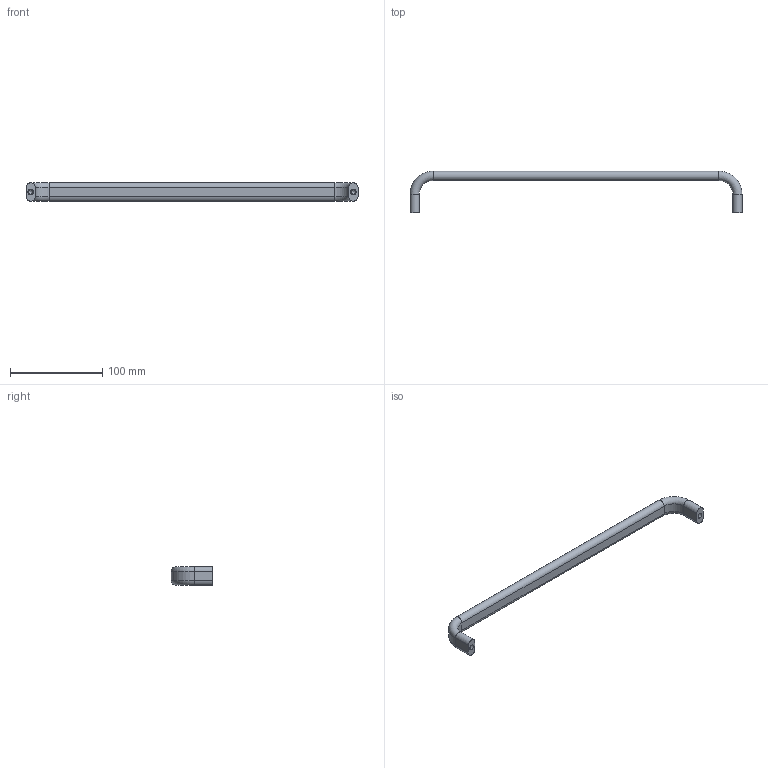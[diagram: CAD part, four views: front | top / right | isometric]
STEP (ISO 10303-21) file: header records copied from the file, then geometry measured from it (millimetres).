
FILE_DESCRIPTION (( 'STEP AP203' ), '1' );
FILE_NAME ('7803.W350-4.step', '2010-02-11T18:10:08', ( 'Wixroyd' ), ( 'Wixroyd' ), 'SwSTEP 2.0', 'SolidWorks 2009', '' );
FILE_SCHEMA (( 'CONFIG_CONTROL_DESIGN' ));
Length unit declared in the file: millimetre
Products named in the file (1): 7803.W350-4
Bounding box: 360 x 45 x 20 mm (x, y, z)
Volume: 72852.4 mm3; surface area: 22167.3 mm2
Topology: 1 solids, 1 shells, 36 faces, 76 edges, 42 vertices
Faces by surface type: cylinder 18, plane 10, cone 4, torus 4
Entity records: 1005 total; most frequent: DIRECTION 182, CARTESIAN_POINT 151, ORIENTED_EDGE 144, AXIS2_PLACEMENT_3D 73, EDGE_CURVE 72, VERTEX_POINT 42, EDGE_LOOP 40, CIRCLE 36
